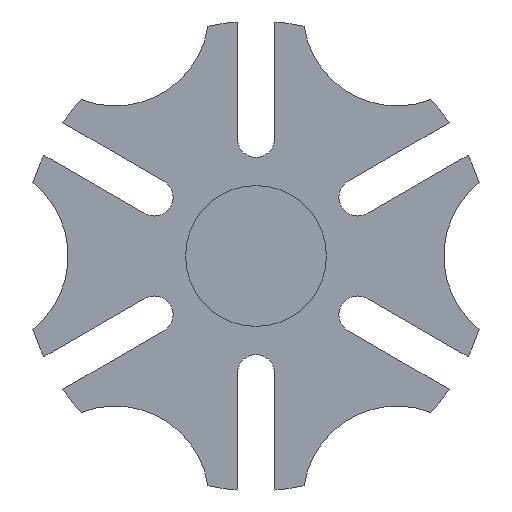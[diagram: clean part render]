
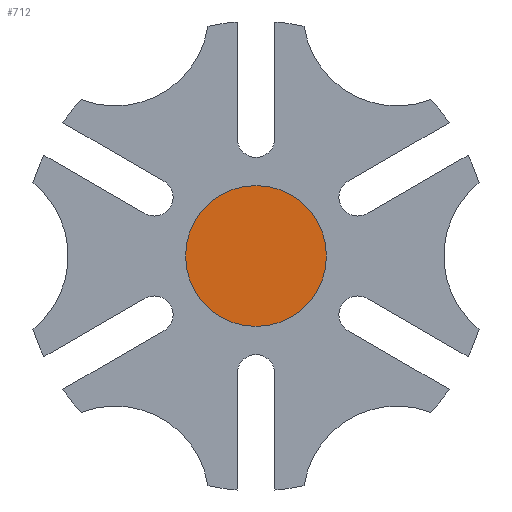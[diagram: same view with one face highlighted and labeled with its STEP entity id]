
A CAD part, front view. The second image highlights one B-rep face of the part: STEP entity #712.
In plain terms, the highlighted planar face has unit normal (0, -1, 0).
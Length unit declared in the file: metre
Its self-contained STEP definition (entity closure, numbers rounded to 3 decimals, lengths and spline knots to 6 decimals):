
#133=PLANE('',#791);
#185=ORIENTED_EDGE('',*,*,#367,.F.);
#367=EDGE_CURVE('',#477,#477,#551,.T.);
#477=VERTEX_POINT('',#1098);
#551=CIRCLE('',#764,0.0225);
#604=EDGE_LOOP('',(#185));
#646=FACE_BOUND('',#604,.T.);
#712=ADVANCED_FACE('',(#646),#133,.F.);
#764=AXIS2_PLACEMENT_3D('',#1097,#857,#858);
#791=AXIS2_PLACEMENT_3D('',#1174,#923,#924);
#857=DIRECTION('',(0.,1.,0.));
#858=DIRECTION('',(1.,0.,0.));
#923=DIRECTION('',(0.,1.,0.));
#924=DIRECTION('',(1.,0.,0.));
#1097=CARTESIAN_POINT('',(0.,-0.01,0.));
#1098=CARTESIAN_POINT('',(0.0225,-0.01,0.));
#1174=CARTESIAN_POINT('',(0.,-0.01,0.));
